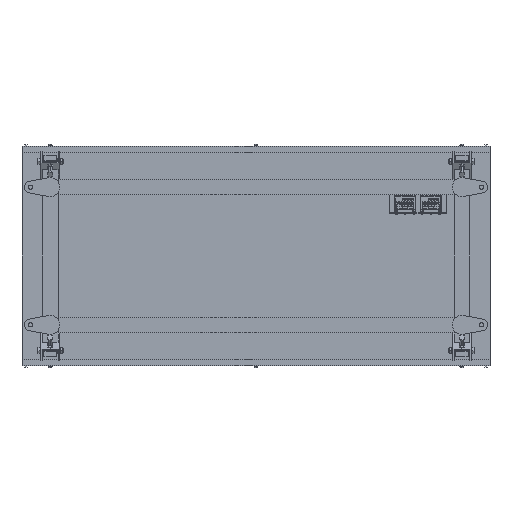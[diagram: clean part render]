
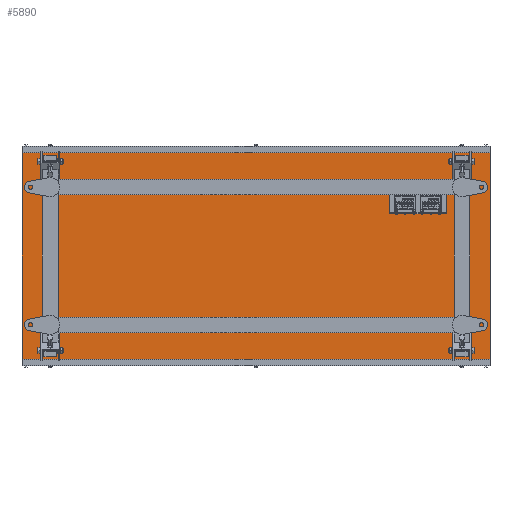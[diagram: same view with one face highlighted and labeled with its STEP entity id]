
A CAD part, front view. The second image highlights one B-rep face of the part: STEP entity #5890.
In plain terms, the highlighted planar face has unit normal (0, -1, 0).
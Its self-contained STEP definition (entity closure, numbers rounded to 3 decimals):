
#5890=ADVANCED_FACE('',(#40927,#40928,#40929,#40930,#40931),#40926,.F.);
#40926=PLANE('',#61961);
#40927=FACE_OUTER_BOUND('',#61962,.T.);
#40928=FACE_BOUND('',#61963,.T.);
#40929=FACE_BOUND('',#61964,.T.);
#40930=FACE_BOUND('',#61965,.T.);
#40931=FACE_BOUND('',#61966,.T.);
#61958=CARTESIAN_POINT('',(-10.,-180.,-340.));
#61959=DIRECTION('',(0.,1.,0.));
#61960=DIRECTION('',(0.,0.,1.));
#61961=AXIS2_PLACEMENT_3D('',#61958,#61959,#61960);
#61962=EDGE_LOOP('',(#80584,#80585,#80586,#80587));
#61963=EDGE_LOOP('',(#80588,#80589,#80590,#80591));
#61964=EDGE_LOOP('',(#80592,#80593,#80594,#80595));
#61965=EDGE_LOOP('',(#80596,#80597,#80598,#80599));
#61966=EDGE_LOOP('',(#80600,#80601,#80602,#80603));
#80584=ORIENTED_EDGE('',*,*,#90429,.T.);
#80585=ORIENTED_EDGE('',*,*,#90527,.F.);
#80586=ORIENTED_EDGE('',*,*,#90413,.F.);
#80587=ORIENTED_EDGE('',*,*,#90528,.T.);
#80588=ORIENTED_EDGE('',*,*,#90406,.F.);
#80589=ORIENTED_EDGE('',*,*,#90397,.F.);
#80590=ORIENTED_EDGE('',*,*,#90400,.F.);
#80591=ORIENTED_EDGE('',*,*,#90403,.F.);
#80592=ORIENTED_EDGE('',*,*,#89816,.T.);
#80593=ORIENTED_EDGE('',*,*,#89817,.T.);
#80594=ORIENTED_EDGE('',*,*,#89808,.T.);
#80595=ORIENTED_EDGE('',*,*,#89812,.T.);
#80596=ORIENTED_EDGE('',*,*,#90208,.T.);
#80597=ORIENTED_EDGE('',*,*,#90209,.T.);
#80598=ORIENTED_EDGE('',*,*,#90200,.T.);
#80599=ORIENTED_EDGE('',*,*,#90204,.T.);
#80600=ORIENTED_EDGE('',*,*,#90014,.F.);
#80601=ORIENTED_EDGE('',*,*,#90005,.F.);
#80602=ORIENTED_EDGE('',*,*,#90008,.F.);
#80603=ORIENTED_EDGE('',*,*,#90011,.F.);
#89808=EDGE_CURVE('',#145772,#145773,#145774,.T.);
#89812=EDGE_CURVE('',#145773,#145792,#145799,.T.);
#89816=EDGE_CURVE('',#145792,#145819,#145826,.T.);
#89817=EDGE_CURVE('',#145819,#145772,#145832,.T.);
#90005=EDGE_CURVE('',#147103,#147089,#147110,.T.);
#90008=EDGE_CURVE('',#147122,#147103,#147129,.T.);
#90011=EDGE_CURVE('',#147149,#147122,#147150,.T.);
#90014=EDGE_CURVE('',#147089,#147149,#147168,.T.);
#90200=EDGE_CURVE('',#148430,#148431,#148432,.T.);
#90204=EDGE_CURVE('',#148431,#148450,#148457,.T.);
#90208=EDGE_CURVE('',#148450,#148477,#148484,.T.);
#90209=EDGE_CURVE('',#148477,#148430,#148490,.T.);
#90397=EDGE_CURVE('',#149761,#149747,#149768,.T.);
#90400=EDGE_CURVE('',#149780,#149761,#149787,.T.);
#90403=EDGE_CURVE('',#149807,#149780,#149808,.T.);
#90406=EDGE_CURVE('',#149747,#149807,#149826,.T.);
#90413=EDGE_CURVE('',#149868,#149875,#149876,.T.);
#90429=EDGE_CURVE('',#149983,#149976,#149984,.T.);
#90527=EDGE_CURVE('',#149875,#149976,#150580,.T.);
#90528=EDGE_CURVE('',#149868,#149983,#150586,.T.);
#145772=VERTEX_POINT('',#183952);
#145773=VERTEX_POINT('',#183953);
#145774=LINE('',#183954,#183955);
#145792=VERTEX_POINT('',#183963);
#145799=LINE('',#183967,#183968);
#145819=VERTEX_POINT('',#183980);
#145826=LINE('',#183984,#183985);
#145832=LINE('',#183987,#183988);
#147089=VERTEX_POINT('',#184731);
#147103=VERTEX_POINT('',#184739);
#147110=LINE('',#184743,#184744);
#147122=VERTEX_POINT('',#184749);
#147129=LINE('',#184753,#184754);
#147149=VERTEX_POINT('',#184766);
#147150=LINE('',#184767,#184768);
#147168=LINE('',#184776,#184777);
#148430=VERTEX_POINT('',#185524);
#148431=VERTEX_POINT('',#185525);
#148432=LINE('',#185526,#185527);
#148450=VERTEX_POINT('',#185535);
#148457=LINE('',#185539,#185540);
#148477=VERTEX_POINT('',#185552);
#148484=LINE('',#185556,#185557);
#148490=LINE('',#185559,#185560);
#149747=VERTEX_POINT('',#186303);
#149761=VERTEX_POINT('',#186311);
#149768=LINE('',#186315,#186316);
#149780=VERTEX_POINT('',#186321);
#149787=LINE('',#186325,#186326);
#149807=VERTEX_POINT('',#186338);
#149808=LINE('',#186339,#186340);
#149826=LINE('',#186348,#186349);
#149868=VERTEX_POINT('',#186374);
#149875=VERTEX_POINT('',#186378);
#149876=LINE('',#186379,#186380);
#149976=VERTEX_POINT('',#186434);
#149983=VERTEX_POINT('',#186438);
#149984=LINE('',#186439,#186440);
#150580=LINE('',#186821,#186822);
#150586=LINE('',#186824,#186825);
#183952=CARTESIAN_POINT('',(70.,-180.,322.));
#183953=CARTESIAN_POINT('',(110.,-180.,322.));
#183954=CARTESIAN_POINT('',(70.,-180.,322.));
#183955=VECTOR('',#183956,40.);
#183956=DIRECTION('',(1.,0.,0.));
#183963=CARTESIAN_POINT('',(110.,-180.,282.));
#183967=CARTESIAN_POINT('',(110.,-180.,322.));
#183968=VECTOR('',#183969,40.);
#183969=DIRECTION('',(0.,0.,-1.));
#183980=CARTESIAN_POINT('',(70.,-180.,282.));
#183984=CARTESIAN_POINT('',(110.,-180.,282.));
#183985=VECTOR('',#183986,40.);
#183986=DIRECTION('',(-1.,0.,0.));
#183987=CARTESIAN_POINT('',(70.,-180.,282.));
#183988=VECTOR('',#183989,40.);
#183989=DIRECTION('',(0.,0.,1.));
#184731=CARTESIAN_POINT('',(1425.,-180.,282.));
#184739=CARTESIAN_POINT('',(1385.,-180.,282.));
#184743=CARTESIAN_POINT('',(1385.,-180.,282.));
#184744=VECTOR('',#184745,40.);
#184745=DIRECTION('',(1.,0.,0.));
#184749=CARTESIAN_POINT('',(1385.,-180.,322.));
#184753=CARTESIAN_POINT('',(1385.,-180.,322.));
#184754=VECTOR('',#184755,40.);
#184755=DIRECTION('',(0.,0.,-1.));
#184766=CARTESIAN_POINT('',(1425.,-180.,322.));
#184767=CARTESIAN_POINT('',(1425.,-180.,322.));
#184768=VECTOR('',#184769,40.);
#184769=DIRECTION('',(-1.,0.,0.));
#184776=CARTESIAN_POINT('',(1425.,-180.,282.));
#184777=VECTOR('',#184778,40.);
#184778=DIRECTION('',(0.,0.,1.));
#185524=CARTESIAN_POINT('',(1425.,-180.,-322.));
#185525=CARTESIAN_POINT('',(1385.,-180.,-322.));
#185526=CARTESIAN_POINT('',(1425.,-180.,-322.));
#185527=VECTOR('',#185528,40.);
#185528=DIRECTION('',(-1.,0.,0.));
#185535=CARTESIAN_POINT('',(1385.,-180.,-282.));
#185539=CARTESIAN_POINT('',(1385.,-180.,-322.));
#185540=VECTOR('',#185541,40.);
#185541=DIRECTION('',(0.,0.,1.));
#185552=CARTESIAN_POINT('',(1425.,-180.,-282.));
#185556=CARTESIAN_POINT('',(1385.,-180.,-282.));
#185557=VECTOR('',#185558,40.);
#185558=DIRECTION('',(1.,0.,0.));
#185559=CARTESIAN_POINT('',(1425.,-180.,-282.));
#185560=VECTOR('',#185561,40.);
#185561=DIRECTION('',(0.,0.,-1.));
#186303=CARTESIAN_POINT('',(70.,-180.,-282.));
#186311=CARTESIAN_POINT('',(110.,-180.,-282.));
#186315=CARTESIAN_POINT('',(110.,-180.,-282.));
#186316=VECTOR('',#186317,40.);
#186317=DIRECTION('',(-1.,0.,0.));
#186321=CARTESIAN_POINT('',(110.,-180.,-322.));
#186325=CARTESIAN_POINT('',(110.,-180.,-322.));
#186326=VECTOR('',#186327,40.);
#186327=DIRECTION('',(0.,0.,1.));
#186338=CARTESIAN_POINT('',(70.,-180.,-322.));
#186339=CARTESIAN_POINT('',(70.,-180.,-322.));
#186340=VECTOR('',#186341,40.);
#186341=DIRECTION('',(1.,0.,0.));
#186348=CARTESIAN_POINT('',(70.,-180.,-282.));
#186349=VECTOR('',#186350,40.);
#186350=DIRECTION('',(0.,0.,-1.));
#186374=CARTESIAN_POINT('',(1495.,-180.,330.));
#186378=CARTESIAN_POINT('',(1495.,-180.,-330.));
#186379=CARTESIAN_POINT('',(1495.,-180.,330.));
#186380=VECTOR('',#186381,660.);
#186381=DIRECTION('',(0.,0.,-1.));
#186434=CARTESIAN_POINT('',(0.,-180.,-330.));
#186438=CARTESIAN_POINT('',(0.,-180.,330.));
#186439=CARTESIAN_POINT('',(0.,-180.,330.));
#186440=VECTOR('',#186441,660.);
#186441=DIRECTION('',(0.,0.,-1.));
#186821=CARTESIAN_POINT('',(1495.,-180.,-330.));
#186822=VECTOR('',#186823,1495.);
#186823=DIRECTION('',(-1.,0.,0.));
#186824=CARTESIAN_POINT('',(1495.,-180.,330.));
#186825=VECTOR('',#186826,1495.);
#186826=DIRECTION('',(-1.,0.,0.));
